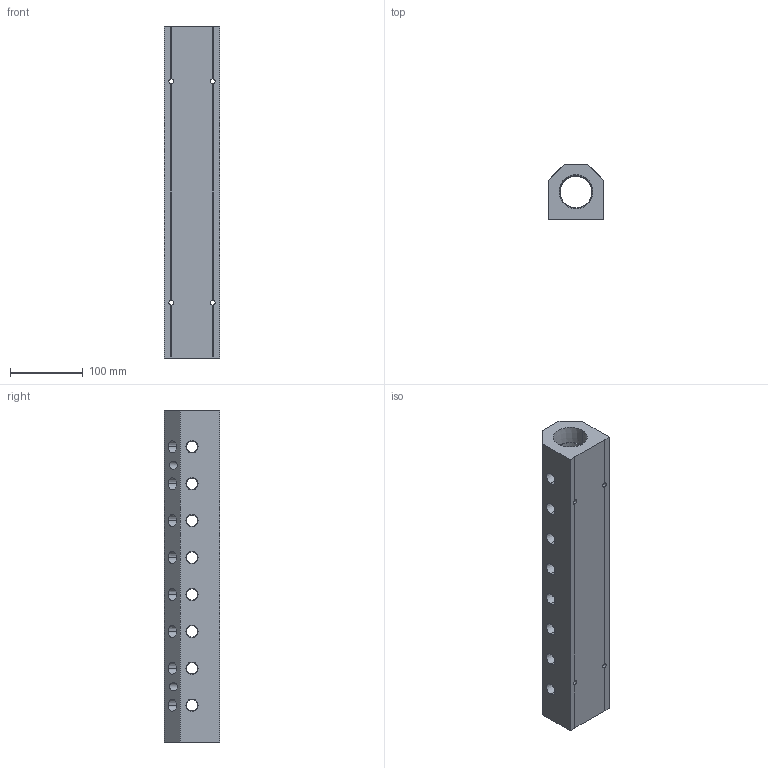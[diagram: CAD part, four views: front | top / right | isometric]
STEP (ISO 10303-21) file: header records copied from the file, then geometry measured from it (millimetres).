
FILE_DESCRIPTION (( 'STEP AP214' ), '1' );
FILE_NAME ('ALM8ABCDE-N6N24-457R.step', '2022-02-07T07:58:14', ( '' ), ( '' ), 'SwSTEP 2.0', 'SolidWorks 2020', '' );
FILE_SCHEMA (( 'AUTOMOTIVE_DESIGN' ));
Length unit declared in the file: millimetre
Products named in the file (1): ALM8ABCDE-N6N24-457R
Bounding box: 76.2 x 76.2 x 457 mm (x, y, z)
Volume: 1567381.9 mm3; surface area: 221553.9 mm2
Topology: 1 solids, 1 shells, 419 faces, 1142 edges, 748 vertices
Faces by surface type: plane 246, cone 84, bspline 71, cylinder 18
Entity records: 25349 total; most frequent: CARTESIAN_POINT 11101, ORIENTED_EDGE 2284, DIRECTION 1718, EDGE_CURVE 1142, LINE 788, VECTOR 788, VERTEX_POINT 748, EDGE_LOOP 532
